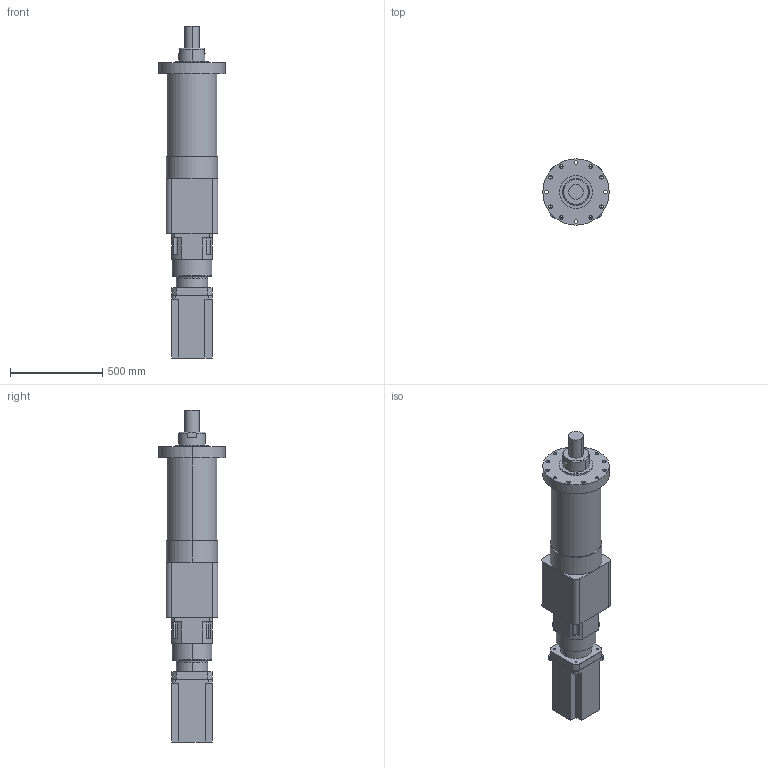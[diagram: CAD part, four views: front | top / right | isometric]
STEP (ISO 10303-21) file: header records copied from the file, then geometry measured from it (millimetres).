
FILE_DESCRIPTION (( 'STEP AP203' ), '1' );
FILE_NAME ('YRJ250-L120-E-H3K1.STEP', '2021-06-03T01:47:12', ( '' ), ( '' ), 'SwSTEP 2.0', 'SolidWorks 2018', '' );
FILE_SCHEMA (( 'CONFIG_CONTROL_DESIGN' ));
Length unit declared in the file: millimetre
Products named in the file (8): H3-ヶ楊擘; 詰极; 粣創釱; AB220-012-55-200-235-M12-116_1﹝﹝; 錨璃8; YRJ250-L120-E-H3K1; 眻蟀萇儂碟; K1-蹟恇芛
Assembly tree (7 placements, depth 2):
  YRJ250-L120-E-H3K1
    詰极
    H3-ヶ楊擘
    K1-蹟恇芛
    眻蟀萇儂碟
    粣創釱
    AB220-012-55-200-235-M12-116_1﹝﹝
    錨璃8
Bounding box: 360 x 360 x 1801.5 mm (x, y, z)
Volume: 95345085.7 mm3; surface area: 3188059.6 mm2
Topology: 7 solids, 7 shells, 301 faces, 752 edges, 480 vertices
Faces by surface type: plane 121, cylinder 114, cone 58, torus 6, bspline 2
Entity records: 12160 total; most frequent: CARTESIAN_POINT 3889, DIRECTION 1634, ORIENTED_EDGE 1500, EDGE_CURVE 750, AXIS2_PLACEMENT_3D 643, VERTEX_POINT 480, EDGE_LOOP 362, VECTOR 348
